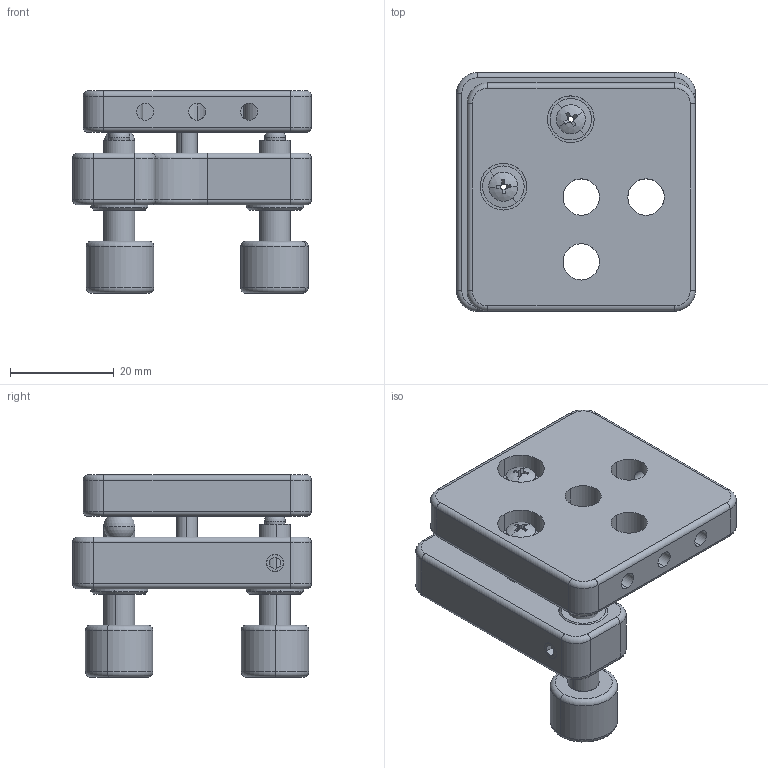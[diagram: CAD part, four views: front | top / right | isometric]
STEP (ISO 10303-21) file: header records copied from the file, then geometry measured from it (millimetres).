
FILE_DESCRIPTION (( 'STEP AP203' ), '1' );
FILE_NAME ('7SIM0305倾斜台.STEP', '2019-09-29T01:14:17', ( '' ), ( '' ), 'SwSTEP 2.0', 'SolidWorks 2014', '' );
FILE_SCHEMA (( 'CONFIG_CONTROL_DESIGN' ));
Length unit declared in the file: millimetre
Products named in the file (1): 7SIM0305ъ訇怢
Bounding box: 46 x 46 x 39 mm (x, y, z)
Surface area: 14437.4 mm2 (no closed solid volume)
Topology: 0 solids, 31 shells, 286 faces, 781 edges, 510 vertices
Faces by surface type: cylinder 128, plane 90, torus 28, cone 26, sphere 14
Entity records: 9338 total; most frequent: CARTESIAN_POINT 1956, DIRECTION 1693, ORIENTED_EDGE 1356, EDGE_CURVE 764, AXIS2_PLACEMENT_3D 702, VERTEX_POINT 501, CIRCLE 415, EDGE_LOOP 333
